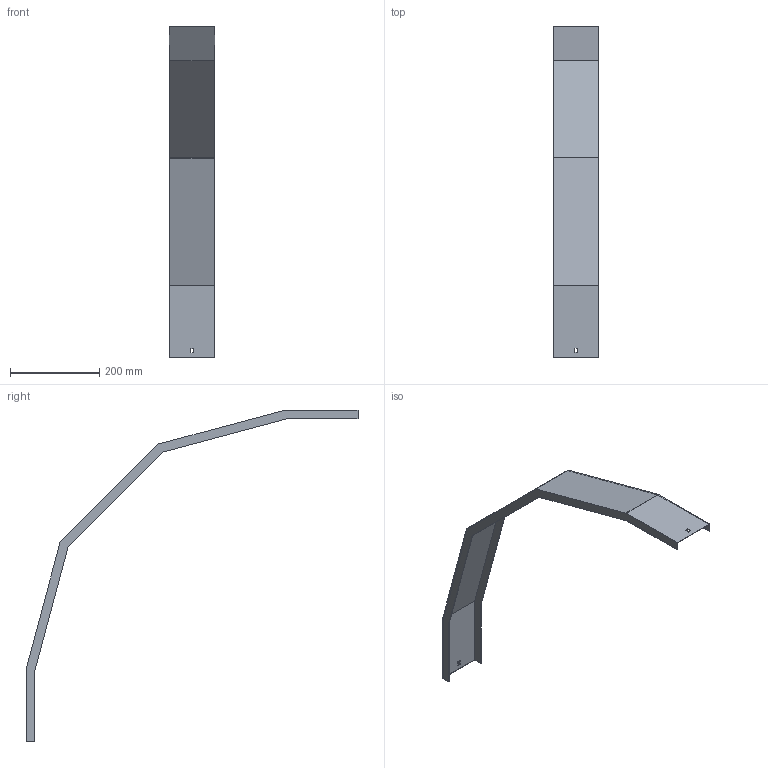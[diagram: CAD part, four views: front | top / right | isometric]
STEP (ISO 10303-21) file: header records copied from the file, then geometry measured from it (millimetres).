
FILE_DESCRIPTION (( 'STEP AP214' ), '1' );
FILE_NAME ('33N5C100.step', '2025-02-21T10:42:37', ( '' ), ( '' ), 'SwSTEP 2.0', 'SolidWorks 2023', '' );
FILE_SCHEMA (( 'AUTOMOTIVE_DESIGN' ));
Length unit declared in the file: millimetre
Products named in the file (1): 33N5C100
Bounding box: 103 x 745.38 x 745.38 mm (x, y, z)
Volume: 256768.9 mm3; surface area: 346466.2 mm2
Topology: 1 solids, 1 shells, 34 faces, 96 edges, 64 vertices
Faces by surface type: plane 34
Entity records: 1111 total; most frequent: CARTESIAN_POINT 195, ORIENTED_EDGE 192, DIRECTION 166, VECTOR 96, EDGE_CURVE 96, LINE 96, VERTEX_POINT 64, EDGE_LOOP 38
